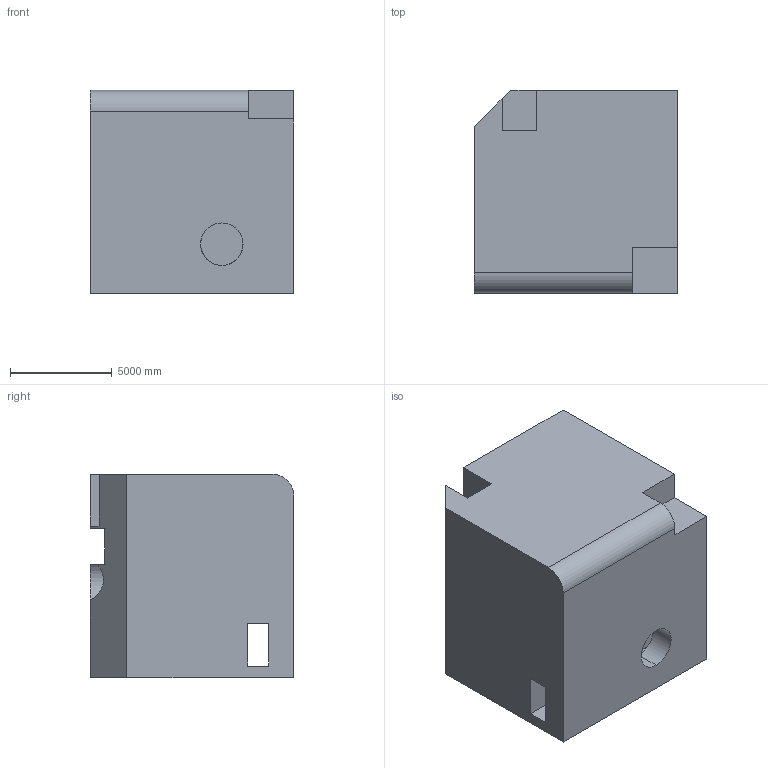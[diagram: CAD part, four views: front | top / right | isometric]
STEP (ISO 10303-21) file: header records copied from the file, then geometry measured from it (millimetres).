
FILE_DESCRIPTION (( 'STEP AP203' ), '1' );
FILE_NAME ('1954.STEP', '2022-08-23T09:55:04', ( 'user' ), ( '' ), 'SwSTEP 2.0', 'SolidWorks 2021', '' );
FILE_SCHEMA (( 'CONFIG_CONTROL_DESIGN' ));
Length unit declared in the file: centimetre
Products named in the file (1): 1954
Bounding box: 10000 x 10000 x 10000 mm (x, y, z)
Volume: 876214747505.3 mm3; surface area: 740847381 mm2
Topology: 1 solids, 1 shells, 38 faces, 108 edges, 72 vertices
Faces by surface type: plane 31, cylinder 7
Entity records: 1315 total; most frequent: CARTESIAN_POINT 222, ORIENTED_EDGE 216, DIRECTION 203, EDGE_CURVE 108, LINE 89, VECTOR 89, VERTEX_POINT 72, AXIS2_PLACEMENT_3D 57
